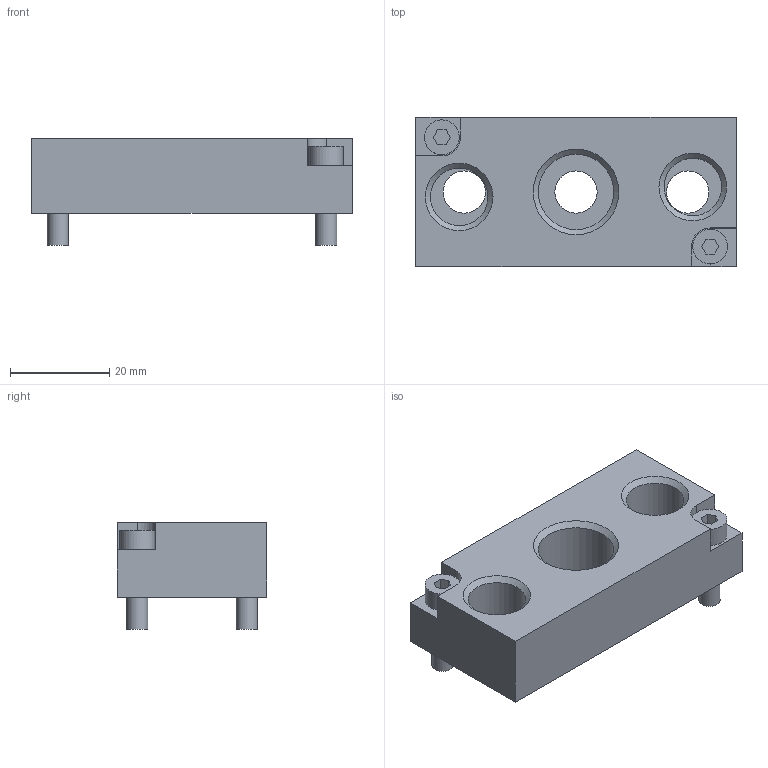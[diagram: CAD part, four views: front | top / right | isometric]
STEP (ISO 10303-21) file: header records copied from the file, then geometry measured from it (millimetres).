
FILE_DESCRIPTION(/* description */ ('BLOCCHETTO ALIM.SUPPL.x BASE 1/4"'),/* implementation_level */ '2;1');
FILE_NAME(/* name */ 'I:\Area Tecnica\Disegni\VARIE-3D\Componenti\T400\T424\T424_32.stp',/* time_stamp */ '2015-09-23T13:46:04+02:00',/* author */ ('maniean1'),/* organization */ ('Pneumax S.p.A.'),/* preprocessor_version */ 'ST-DEVELOPER v15.2',/* originating_system */ 'Autodesk Inventor 2014',/* authorisation */ '');
FILE_SCHEMA (('AUTOMOTIVE_DESIGN { 1 0 10303 214 3 1 1 }'));
Length unit declared in the file: millimetre
Products named in the file (1): T424_32
Bounding box: 64.5 x 30 x 21.5 mm (x, y, z)
Surface area: 17441.9 mm2
Topology: 3 solids, 5 shells, 54 faces, 116 edges, 77 vertices
Faces by surface type: plane 37, cylinder 14, cone 3
Full cylindrical faces by diameter (mm): 4.25 x4, 7 x2, 8.5 x3, 11.6 x2, 15.2 x1
Entity records: 1415 total; most frequent: DIRECTION 236, CARTESIAN_POINT 225, ORIENTED_EDGE 198, EDGE_CURVE 97, EDGE_LOOP 84, AXIS2_PLACEMENT_3D 84, VERTEX_POINT 73, LINE 68
